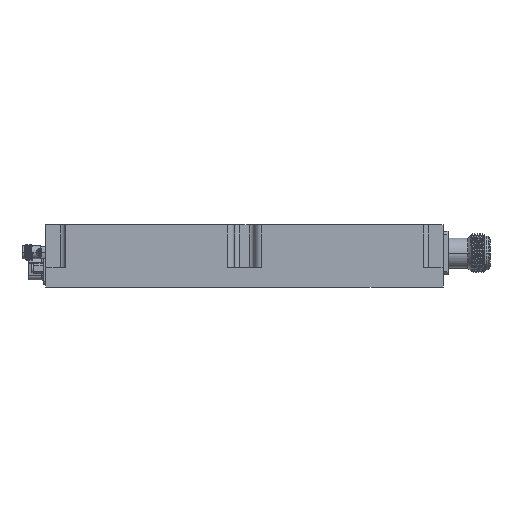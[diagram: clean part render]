
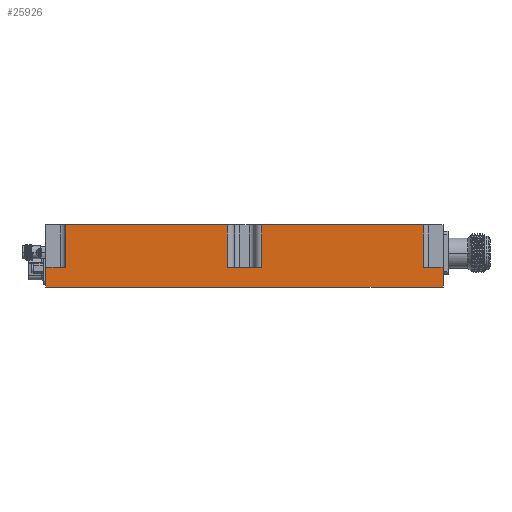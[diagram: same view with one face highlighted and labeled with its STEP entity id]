
A CAD part, front view. The second image highlights one B-rep face of the part: STEP entity #25926.
In plain terms, the highlighted planar face has unit normal (0, -1, 0).
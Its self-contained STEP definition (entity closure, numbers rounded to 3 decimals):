
#700 = LINE ( 'NONE', #44036, #40141 ) ;
#2757 = CARTESIAN_POINT ( 'NONE',  ( 160., 0., 8. ) ) ;
#3179 = CARTESIAN_POINT ( 'NONE',  ( 0., 0., 0. ) ) ;
#3456 = VECTOR ( 'NONE', #42914, 1000. ) ;
#3799 = ORIENTED_EDGE ( 'NONE', *, *, #41663, .F. ) ;
#3873 = ORIENTED_EDGE ( 'NONE', *, *, #35890, .F. ) ;
#4188 = CARTESIAN_POINT ( 'NONE',  ( 152., 0., 8. ) ) ;
#4469 = LINE ( 'NONE', #30779, #8402 ) ;
#4677 = LINE ( 'NONE', #14565, #14344 ) ;
#6209 = CARTESIAN_POINT ( 'NONE',  ( 8., 0., 25. ) ) ;
#6576 = CARTESIAN_POINT ( 'NONE',  ( 0., 0., 0. ) ) ;
#7485 = ORIENTED_EDGE ( 'NONE', *, *, #17305, .F. ) ;
#8317 = LINE ( 'NONE', #2757, #9457 ) ;
#8402 = VECTOR ( 'NONE', #44948, 1000. ) ;
#8895 = VERTEX_POINT ( 'NONE', #35402 ) ;
#9455 = ORIENTED_EDGE ( 'NONE', *, *, #18885, .F. ) ;
#9457 = VECTOR ( 'NONE', #31240, 1000. ) ;
#9947 = CARTESIAN_POINT ( 'NONE',  ( 0., 0., 8. ) ) ;
#11218 = DIRECTION ( 'NONE',  ( 0., 0., -1. ) ) ;
#11658 = PLANE ( 'NONE',  #35896 ) ;
#12031 = CARTESIAN_POINT ( 'NONE',  ( 152., 0., 8. ) ) ;
#12592 = CARTESIAN_POINT ( 'NONE',  ( 160., 0., 8. ) ) ;
#12620 = EDGE_CURVE ( 'NONE', #15154, #27408, #4677, .T. ) ;
#12726 = LINE ( 'NONE', #9947, #34627 ) ;
#12849 = ORIENTED_EDGE ( 'NONE', *, *, #31007, .F. ) ;
#13101 = VERTEX_POINT ( 'NONE', #22395 ) ;
#13165 = DIRECTION ( 'NONE',  ( 1., 0., 0. ) ) ;
#13820 = VERTEX_POINT ( 'NONE', #12592 ) ;
#13823 = VECTOR ( 'NONE', #21878, 1000. ) ;
#14344 = VECTOR ( 'NONE', #14712, 1000. ) ;
#14547 = CARTESIAN_POINT ( 'NONE',  ( 73., 0., 8. ) ) ;
#14565 = CARTESIAN_POINT ( 'NONE',  ( 0., 0., 8. ) ) ;
#14712 = DIRECTION ( 'NONE',  ( 1., 0., 0. ) ) ;
#15154 = VERTEX_POINT ( 'NONE', #20687 ) ;
#15195 = VERTEX_POINT ( 'NONE', #3179 ) ;
#15303 = LINE ( 'NONE', #35806, #3456 ) ;
#16840 = VECTOR ( 'NONE', #13165, 1000. ) ;
#17305 = EDGE_CURVE ( 'NONE', #8895, #33187, #15303, .T. ) ;
#18092 = CARTESIAN_POINT ( 'NONE',  ( 87., 0., 8. ) ) ;
#18597 = CARTESIAN_POINT ( 'NONE',  ( 0., 0., 8. ) ) ;
#18885 = EDGE_CURVE ( 'NONE', #36118, #13101, #4469, .T. ) ;
#19359 = EDGE_CURVE ( 'NONE', #32977, #44547, #30899, .T. ) ;
#19796 = DIRECTION ( 'NONE',  ( 0., 0., 1. ) ) ;
#20687 = CARTESIAN_POINT ( 'NONE',  ( 73., 0., 8. ) ) ;
#20779 = FACE_OUTER_BOUND ( 'NONE', #38636, .T. ) ;
#20930 = CARTESIAN_POINT ( 'NONE',  ( 152., 0., 25. ) ) ;
#20996 = LINE ( 'NONE', #33785, #36733 ) ;
#21878 = DIRECTION ( 'NONE',  ( 0., 0., 1. ) ) ;
#22395 = CARTESIAN_POINT ( 'NONE',  ( 73., 0., 25. ) ) ;
#22801 = DIRECTION ( 'NONE',  ( 1., 0., 0. ) ) ;
#23437 = EDGE_CURVE ( 'NONE', #13101, #15154, #36316, .T. ) ;
#23918 = EDGE_CURVE ( 'NONE', #46141, #15195, #35661, .T. ) ;
#24565 = ORIENTED_EDGE ( 'NONE', *, *, #12620, .F. ) ;
#24819 = CARTESIAN_POINT ( 'NONE',  ( 87., 0., 8. ) ) ;
#25259 = VERTEX_POINT ( 'NONE', #12031 ) ;
#25926 = ADVANCED_FACE ( 'NONE', ( #20779 ), #11658, .F. ) ;
#27016 = DIRECTION ( 'NONE',  ( 0., 0., -1. ) ) ;
#27326 = CARTESIAN_POINT ( 'NONE',  ( 160., 0., 0. ) ) ;
#27408 = VERTEX_POINT ( 'NONE', #24819 ) ;
#27414 = CARTESIAN_POINT ( 'NONE',  ( 0., 0., 8. ) ) ;
#27863 = ORIENTED_EDGE ( 'NONE', *, *, #19359, .F. ) ;
#28988 = ORIENTED_EDGE ( 'NONE', *, *, #30231, .T. ) ;
#29448 = DIRECTION ( 'NONE',  ( 0., 1., 0. ) ) ;
#29489 = ORIENTED_EDGE ( 'NONE', *, *, #35753, .F. ) ;
#29557 = LINE ( 'NONE', #18092, #13823 ) ;
#30231 = EDGE_CURVE ( 'NONE', #32977, #15195, #12726, .T. ) ;
#30779 = CARTESIAN_POINT ( 'NONE',  ( 0., 0., 25. ) ) ;
#30899 = LINE ( 'NONE', #34680, #16840 ) ;
#31007 = EDGE_CURVE ( 'NONE', #27408, #8895, #29557, .T. ) ;
#31240 = DIRECTION ( 'NONE',  ( 0., 0., -1. ) ) ;
#31732 = VECTOR ( 'NONE', #45935, 1000. ) ;
#32658 = ORIENTED_EDGE ( 'NONE', *, *, #23918, .F. ) ;
#32977 = VERTEX_POINT ( 'NONE', #27414 ) ;
#33083 = CARTESIAN_POINT ( 'NONE',  ( 8., 0., 8. ) ) ;
#33187 = VERTEX_POINT ( 'NONE', #20930 ) ;
#33785 = CARTESIAN_POINT ( 'NONE',  ( 8., 0., 8. ) ) ;
#34627 = VECTOR ( 'NONE', #43169, 1000. ) ;
#34680 = CARTESIAN_POINT ( 'NONE',  ( 0., 0., 8. ) ) ;
#35182 = ORIENTED_EDGE ( 'NONE', *, *, #39625, .F. ) ;
#35402 = CARTESIAN_POINT ( 'NONE',  ( 87., 0., 25. ) ) ;
#35661 = LINE ( 'NONE', #6576, #31732 ) ;
#35753 = EDGE_CURVE ( 'NONE', #25259, #13820, #700, .T. ) ;
#35806 = CARTESIAN_POINT ( 'NONE',  ( 0., 0., 25. ) ) ;
#35890 = EDGE_CURVE ( 'NONE', #44547, #36118, #20996, .T. ) ;
#35896 = AXIS2_PLACEMENT_3D ( 'NONE', #18597, #29448, #36376 ) ;
#36118 = VERTEX_POINT ( 'NONE', #6209 ) ;
#36316 = LINE ( 'NONE', #14547, #41361 ) ;
#36376 = DIRECTION ( 'NONE',  ( 0., 0., 1. ) ) ;
#36733 = VECTOR ( 'NONE', #19796, 1000. ) ;
#38636 = EDGE_LOOP ( 'NONE', ( #9455, #3873, #27863, #28988, #32658, #35182, #29489, #3799, #7485, #12849, #24565, #44764 ) ) ;
#39625 = EDGE_CURVE ( 'NONE', #13820, #46141, #8317, .T. ) ;
#40141 = VECTOR ( 'NONE', #22801, 1000. ) ;
#41361 = VECTOR ( 'NONE', #11218, 1000. ) ;
#41663 = EDGE_CURVE ( 'NONE', #33187, #25259, #46047, .T. ) ;
#42914 = DIRECTION ( 'NONE',  ( 1., 0., 0. ) ) ;
#43169 = DIRECTION ( 'NONE',  ( 0., 0., -1. ) ) ;
#44036 = CARTESIAN_POINT ( 'NONE',  ( 0., 0., 8. ) ) ;
#44547 = VERTEX_POINT ( 'NONE', #33083 ) ;
#44764 = ORIENTED_EDGE ( 'NONE', *, *, #23437, .F. ) ;
#44948 = DIRECTION ( 'NONE',  ( 1., 0., 0. ) ) ;
#45450 = VECTOR ( 'NONE', #27016, 1000. ) ;
#45935 = DIRECTION ( 'NONE',  ( -1., 0., 0. ) ) ;
#46047 = LINE ( 'NONE', #4188, #45450 ) ;
#46141 = VERTEX_POINT ( 'NONE', #27326 ) ;
